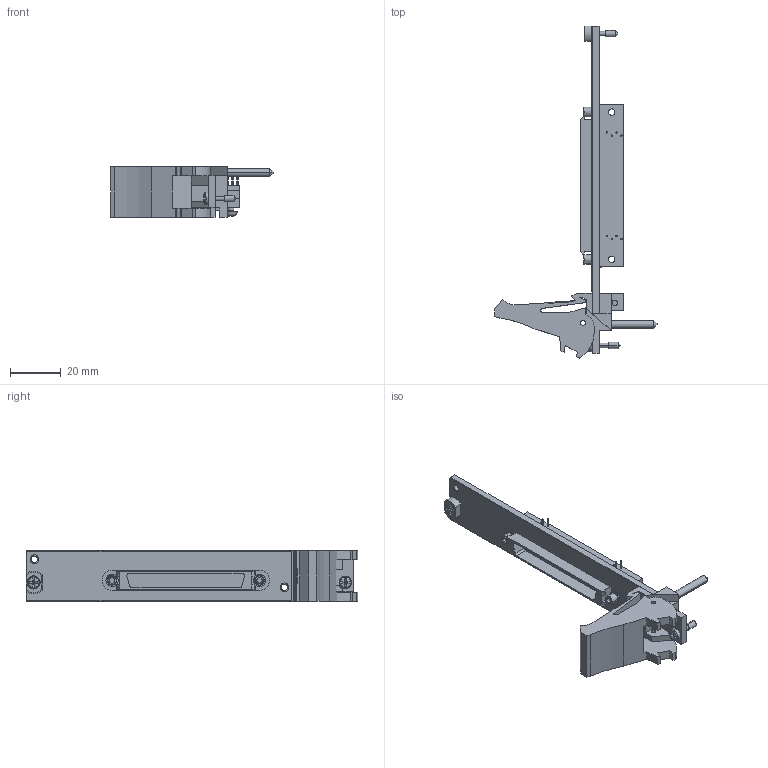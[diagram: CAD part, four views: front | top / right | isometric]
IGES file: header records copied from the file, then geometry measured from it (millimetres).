
Start section:  PTC IGES file: cu_pxi-2534.igs
Global section: file name: cu_pxi-2534.igs; native system: Pro/ENGINEER by Parametric Technology Corporation; preprocessor: 2006080; author: jjorden; organization: Unknown; date: 090929.135303; units: inch
Bounding box: 63.73 x 130.51 x 20.02 mm (x, y, z)
Surface area: 15975.5 mm2 (no closed solid volume)
Topology: 0 solids, 0 shells, 472 faces, 2450 edges, 2442 vertices
Faces by surface type: bspline 317, revolution 155
